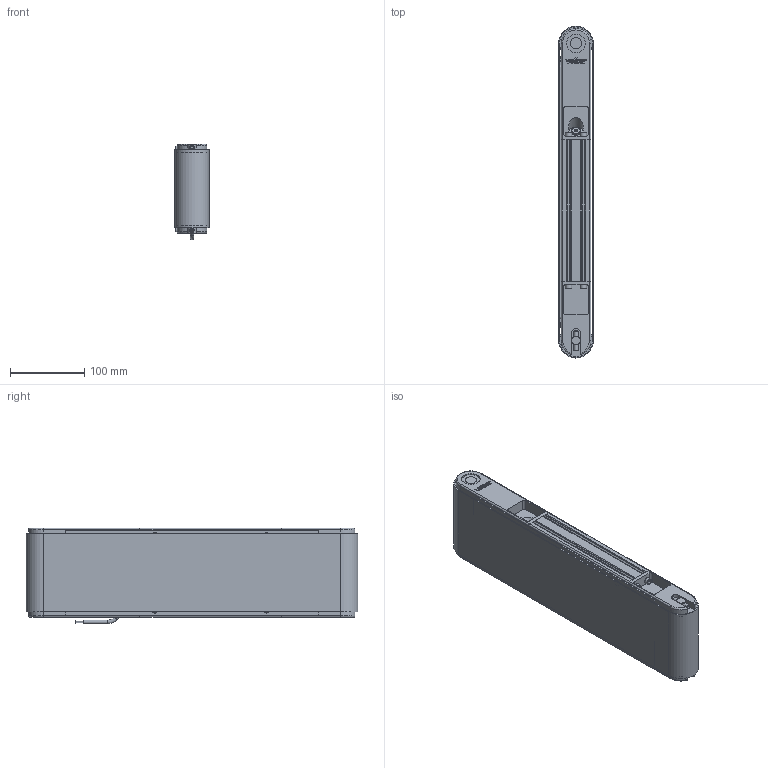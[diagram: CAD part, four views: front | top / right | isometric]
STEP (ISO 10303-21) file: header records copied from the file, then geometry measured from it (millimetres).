
FILE_DESCRIPTION(/* description */ (''),/* implementation_level */ '2;1');
FILE_NAME(/* name */ 'G:\DATEN\CAD\Förderband\Marketing\3D-Modelle (Standard)\FR-40-120\FR-40-120-400-K.stp',/* time_stamp */ '2019-05-08T08:29:45+02:00',/* author */ ('melanie.ochs'),/* organization */ (''),/* preprocessor_version */ 'ST-DEVELOPER v17',/* originating_system */ 'Autodesk Inventor 2019',/* authorisation */ '');
FILE_SCHEMA (('CONFIG_CONTROL_DESIGN'));
Length unit declared in the file: centimetre
Products named in the file (1): FR-40-120-400-K
Bounding box: 46.6 x 446.6 x 128.53 mm (x, y, z)
Volume: 1318304.2 mm3; surface area: 397363.9 mm2
Topology: 6 solids, 29 shells, 1033 faces, 2809 edges, 1878 vertices
Faces by surface type: plane 531, cylinder 285, bspline 122, cone 70, torus 25
Full cylindrical faces by diameter (mm): 2 x2, 4 x6, 4.3 x4, 4.64 x2, 4.917 x3, 5 x11, 5.5 x8, 6 x6, 6.5 x1, 6.647 x3, 8 x4, 8.3 x4, 8.5 x8, 8.773 x1, 10 x1, 11 x1, 12 x4, 15 x4, 20 x4, 25 x2, 28 x4
Entity records: 35166 total; most frequent: CARTESIAN_POINT 8354, ORIENTED_EDGE 5594, DIRECTION 5063, EDGE_CURVE 2797, VERTEX_POINT 1878, AXIS2_PLACEMENT_3D 1753, LINE 1557, VECTOR 1557
